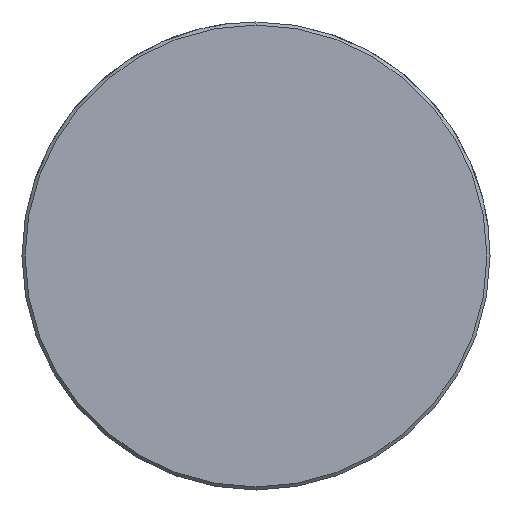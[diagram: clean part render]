
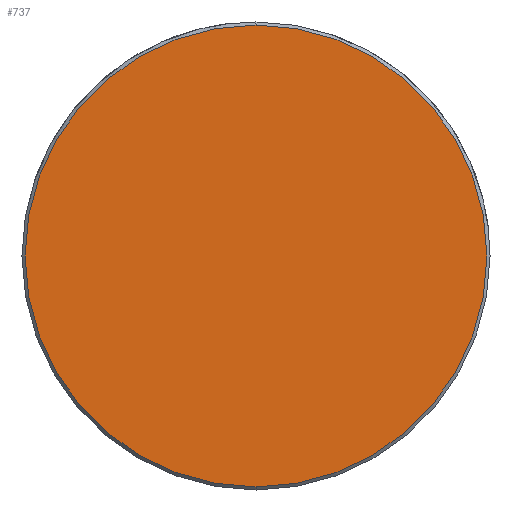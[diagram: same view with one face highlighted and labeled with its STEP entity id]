
A CAD part, left-side view. The second image highlights one B-rep face of the part: STEP entity #737.
In plain terms, the highlighted planar face has unit normal (-1, 0, 0).
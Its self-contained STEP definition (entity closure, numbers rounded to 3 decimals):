
#669=CARTESIAN_POINT('Vertex',(0.,0.,-22.2)) ;
#672=CARTESIAN_POINT('Axis2P3D Location',(0.,0.,0.)) ;
#676=CARTESIAN_POINT('Vertex',(0.,22.2,0.)) ;
#679=CARTESIAN_POINT('Axis2P3D Location',(0.,0.,0.)) ;
#683=CARTESIAN_POINT('Vertex',(0.,0.,22.2)) ;
#705=CARTESIAN_POINT('Axis2P3D Location',(0.,0.,0.)) ;
#709=CARTESIAN_POINT('Vertex',(0.,-22.2,0.)) ;
#712=CARTESIAN_POINT('Axis2P3D Location',(0.,0.,0.)) ;
#726=CARTESIAN_POINT('Axis2P3D Location',(0.,0.,0.)) ;
#673=DIRECTION('Axis2P3D Direction',(1.,0.,-0.)) ;
#680=DIRECTION('Axis2P3D Direction',(1.,0.,-0.)) ;
#706=DIRECTION('Axis2P3D Direction',(1.,0.,-0.)) ;
#713=DIRECTION('Axis2P3D Direction',(1.,0.,-0.)) ;
#727=DIRECTION('Axis2P3D Direction',(1.,0.,-0.)) ;
#728=DIRECTION('Axis2P3D XDirection',(-0.,0.,-1.)) ;
#674=AXIS2_PLACEMENT_3D('Circle Axis2P3D',#672,#673,$) ;
#681=AXIS2_PLACEMENT_3D('Circle Axis2P3D',#679,#680,$) ;
#707=AXIS2_PLACEMENT_3D('Circle Axis2P3D',#705,#706,$) ;
#714=AXIS2_PLACEMENT_3D('Circle Axis2P3D',#712,#713,$) ;
#729=AXIS2_PLACEMENT_3D('Plane Axis2P3D',#726,#727,#728) ;
#732=ORIENTED_EDGE('',*,*,#678,.F.) ;
#733=ORIENTED_EDGE('',*,*,#716,.F.) ;
#734=ORIENTED_EDGE('',*,*,#711,.F.) ;
#735=ORIENTED_EDGE('',*,*,#685,.F.) ;
#737=ADVANCED_FACE('549-40X280',(#736),#730,.F.) ;
#675=CIRCLE('generated circle',#674,22.2) ;
#682=CIRCLE('generated circle',#681,22.2) ;
#708=CIRCLE('generated circle',#707,22.2) ;
#715=CIRCLE('generated circle',#714,22.2) ;
#678=EDGE_CURVE('',#670,#677,#675,.T.) ;
#685=EDGE_CURVE('',#677,#684,#682,.T.) ;
#711=EDGE_CURVE('',#684,#710,#708,.T.) ;
#716=EDGE_CURVE('',#710,#670,#715,.T.) ;
#731=EDGE_LOOP('',(#732,#733,#734,#735)) ;
#736=FACE_OUTER_BOUND('',#731,.T.) ;
#730=PLANE('Plane',#729) ;
#670=VERTEX_POINT('',#669) ;
#677=VERTEX_POINT('',#676) ;
#684=VERTEX_POINT('',#683) ;
#710=VERTEX_POINT('',#709) ;
